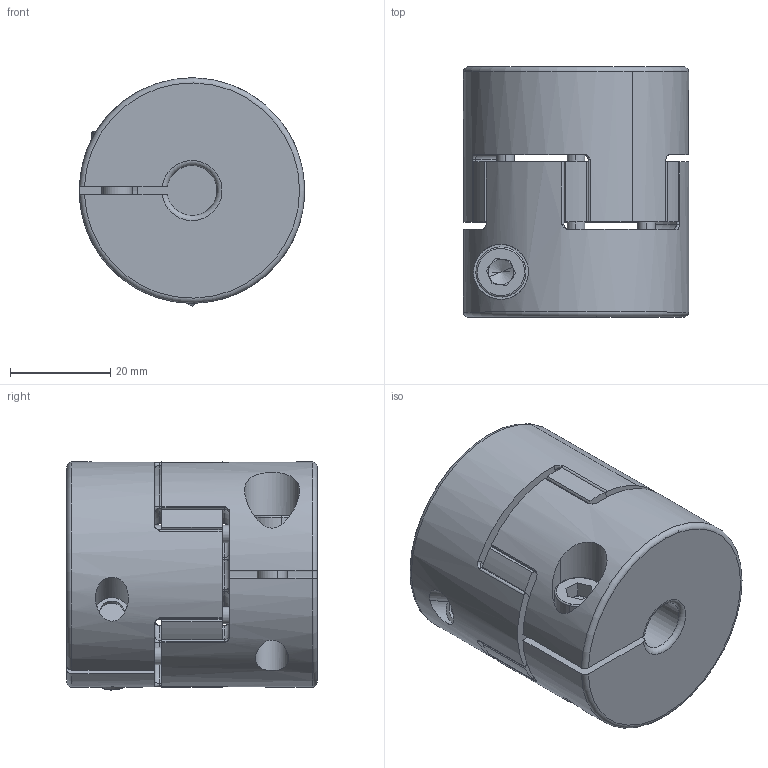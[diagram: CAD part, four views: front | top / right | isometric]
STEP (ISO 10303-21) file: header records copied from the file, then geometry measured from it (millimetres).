
FILE_DESCRIPTION (( 'STEP AP203' ), '1' );
FILE_NAME ('DXA-45X50-10-10.STEP', '2023-10-18T05:46:55', ( '' ), ( '' ), 'SwSTEP 2.0', 'SolidWorks 2020', '' );
FILE_SCHEMA (( 'CONFIG_CONTROL_DESIGN' ));
Length unit declared in the file: millimetre
Products named in the file (4): 45X50梅花夹紧型端部件20以下内孔; DXA-45X50-10-10; 45繩豪菜; socket head cap screw_iso_ISO 4762 M6 x 16 - 16C
Assembly tree (5 placements, depth 2):
  DXA-45X50-10-10
    45繩豪菜
    45X50梅花夹紧型端部件20以下内孔  x2
    socket head cap screw_iso_ISO 4762 M6 x 16 - 16C  x2
Bounding box: 44.99 x 50 x 45.58 mm (x, y, z)
Volume: 67365.2 mm3; surface area: 23643.2 mm2
Topology: 5 solids, 5 shells, 272 faces, 655 edges, 408 vertices
Faces by surface type: cylinder 133, torus 66, plane 61, cone 12
Entity records: 5667 total; most frequent: CARTESIAN_POINT 1064, DIRECTION 996, ORIENTED_EDGE 806, AXIS2_PLACEMENT_3D 432, EDGE_CURVE 403, VERTEX_POINT 255, CIRCLE 255, EDGE_LOOP 188
